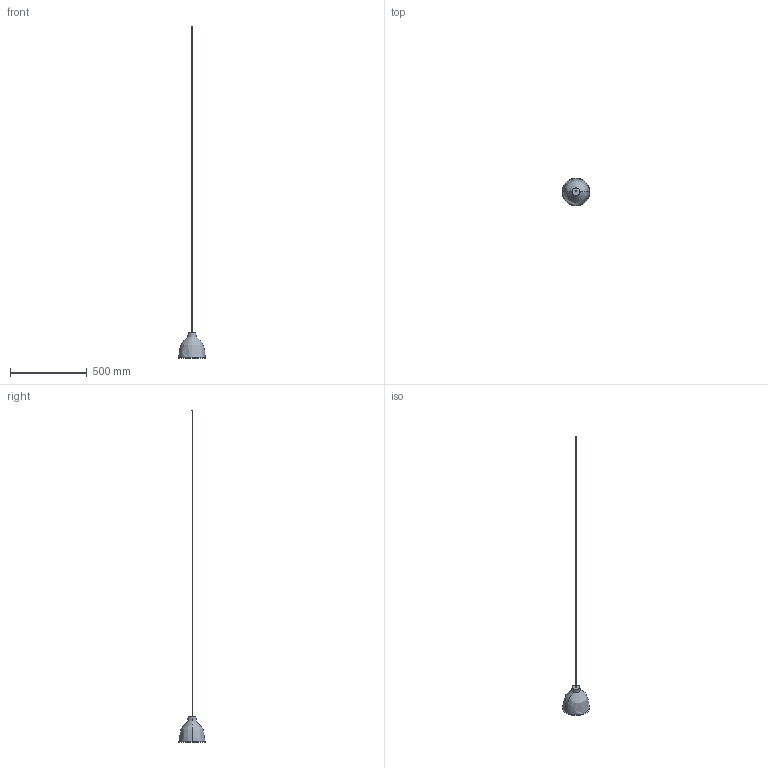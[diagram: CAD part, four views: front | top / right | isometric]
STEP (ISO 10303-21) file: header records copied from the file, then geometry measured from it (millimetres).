
FILE_DESCRIPTION(/* description */ (''),/* implementation_level */ '2;1');
FILE_NAME(/* name */ 'ILKW_WORKSHOP18_Pendant_3D',/* time_stamp */ '2026-08-28T16:45:57+09:00',/* author */ (''),/* organization */ (''),/* preprocessor_version */ 'ST-DEVELOPER v19.2',/* originating_system */ 'Rhino 8.21',/* authorisation */ '');
FILE_SCHEMA (('CONFIG_CONTROL_DESIGN'));
Length unit declared in the file: millimetre
Products named in the file (1): Document
Bounding box: 180.73 x 180.73 x 2163.05 mm (x, y, z)
Volume: 204966.5 mm3; surface area: 130183.1 mm2
Topology: 2 solids, 3 shells, 16 faces, 33 edges, 21 vertices
Faces by surface type: bspline 8, cylinder 4, plane 4
Entity records: 787 total; most frequent: CARTESIAN_POINT 394, ORIENTED_EDGE 58, DIRECTION 56, AXIS2_PLACEMENT_3D 32, EDGE_CURVE 30, TRIMMED_CURVE 20, CIRCLE 20, VERTEX_POINT 19
